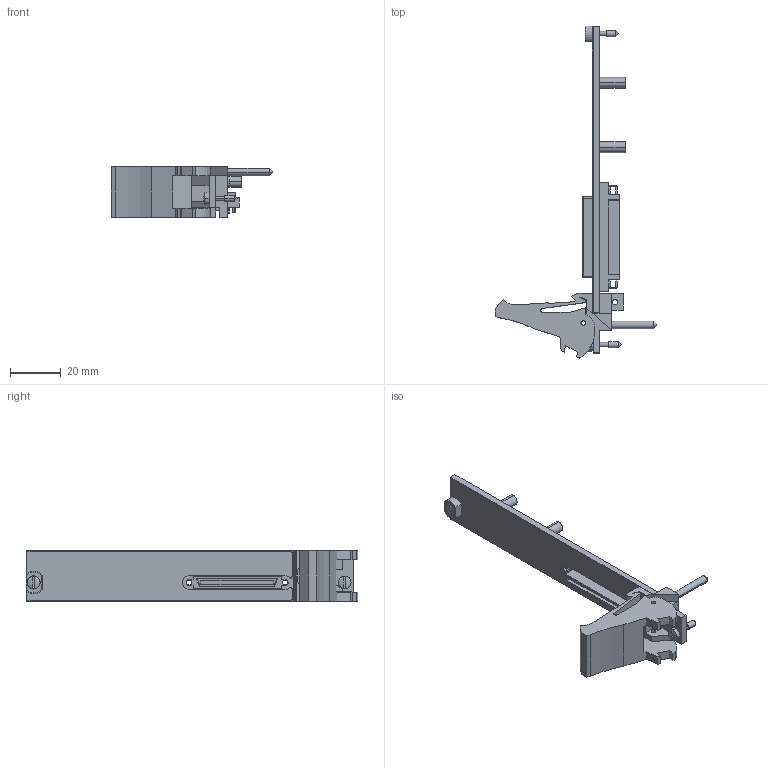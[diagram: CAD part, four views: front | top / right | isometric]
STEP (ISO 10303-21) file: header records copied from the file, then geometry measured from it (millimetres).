
FILE_DESCRIPTION((''),'2;1');
FILE_NAME('CU_PXI-6722','2011-05-24T',('dkendric'),(''),'PRO/ENGINEER BY PARAMETRIC TECHNOLOGY CORPORATION, 2010230','PRO/ENGINEER BY PARAMETRIC TECHNOLOGY CORPORATION, 2010230','');
FILE_SCHEMA(('CONFIG_CONTROL_DESIGN'));
Length unit declared in the file: inch
Products named in the file (1): CU_PXI-6722
Bounding box: 63.53 x 130.62 x 20.02 mm (x, y, z)
Volume: 15431.1 mm3; surface area: 14267.4 mm2
Topology: 1 solids, 1 shells, 346 faces, 934 edges, 611 vertices
Faces by surface type: plane 218, cylinder 114, cone 6, sphere 4, torus 4
Entity records: 10892 total; most frequent: CARTESIAN_POINT 1891, DIRECTION 1865, ORIENTED_EDGE 1860, EDGE_CURVE 930, VECTOR 685, LINE 685, VERTEX_POINT 611, AXIS2_PLACEMENT_3D 590
